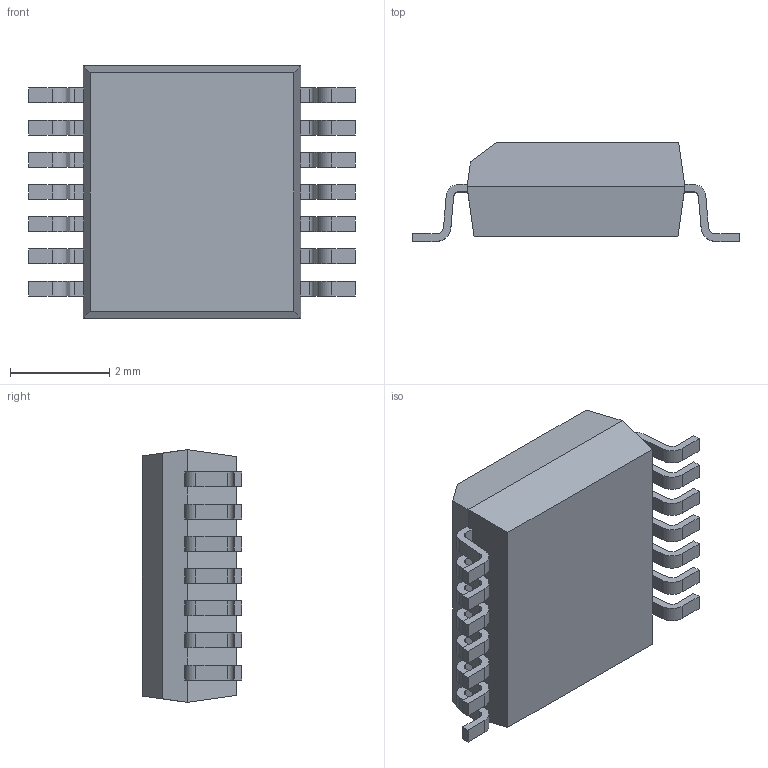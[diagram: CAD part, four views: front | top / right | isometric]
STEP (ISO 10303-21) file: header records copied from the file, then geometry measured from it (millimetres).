
FILE_DESCRIPTION (( 'STEP AP214' ), '1' );
FILE_NAME ('SOP65P640X200-14_MO-152.AB-1.STEP', '2014-10-30T11:22:20', ( 'Tester2' ), ( '' ), 'SwSTEP 2.0', 'SolidWorks 2012', '' );
FILE_SCHEMA (( 'AUTOMOTIVE_DESIGN' ));
Length unit declared in the file: millimetre
Products named in the file (1): SOP65P640X200-14_MO-152.AB-1
Bounding box: 6.6 x 2 x 5.1 mm (x, y, z)
Volume: 41 mm3; surface area: 98 mm2
Topology: 1 solids, 1 shells, 196 faces, 575 edges, 382 vertices
Faces by surface type: plane 138, cylinder 58
Entity records: 8552 total; most frequent: CARTESIAN_POINT 1154, ORIENTED_EDGE 1150, DIRECTION 1085, EDGE_CURVE 575, LINE 459, VECTOR 459, VERTEX_POINT 382, AXIS2_PLACEMENT_3D 313
